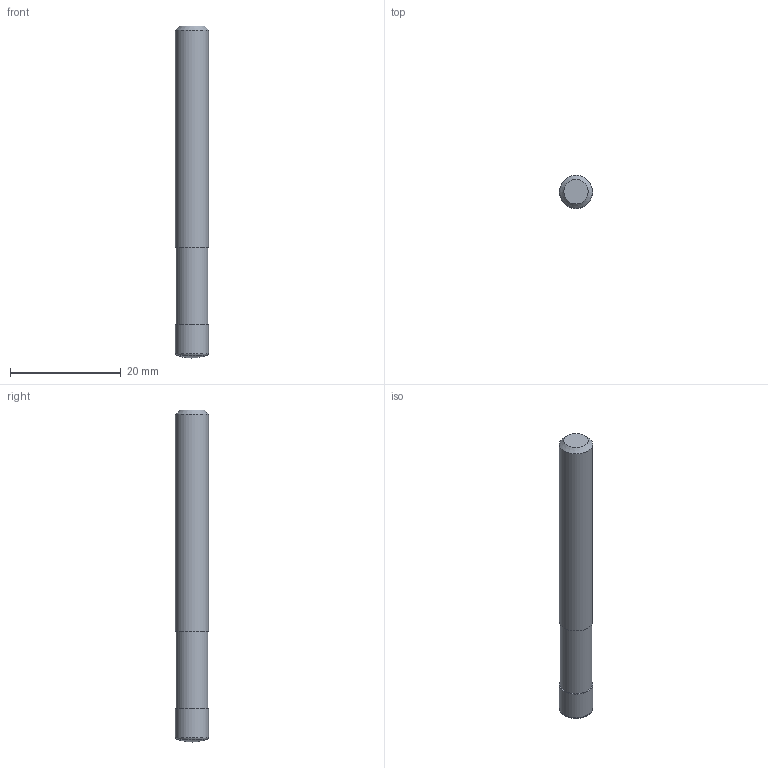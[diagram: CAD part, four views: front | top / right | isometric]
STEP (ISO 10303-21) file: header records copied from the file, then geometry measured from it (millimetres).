
FILE_DESCRIPTION((''),'2;1');
FILE_NAME('C:\Users\nsx150\AppData\Local\Temp\Mastercam 2022\ZJNICECW0E\TEMP.stp','2023-10-12T14:41:34',(''),(''),'STEP Write','Mastercam 2022 ... CNC Software, Inc.','');
FILE_SCHEMA(('AUTOMOTIVE_DESIGN'));
Length unit declared in the file: millimetre
Products named in the file (1): None
Bounding box: 6 x 6 x 60 mm (x, y, z)
Volume: 1644.1 mm3; surface area: 1210.3 mm2
Topology: 2 solids, 2 shells, 10 faces, 16 edges, 10 vertices
Faces by surface type: plane 4, cylinder 3, torus 1, sphere 1, cone 1
Full cylindrical faces by diameter (mm): 5.7 x1, 6 x2
Entity records: 232 total; most frequent: DIRECTION 40, CARTESIAN_POINT 28, AXIS2_PLACEMENT_3D 20, ORIENTED_EDGE 16, EDGE_LOOP 16, STYLED_ITEM 13, FACE_BOUND 10, ADVANCED_FACE 10
